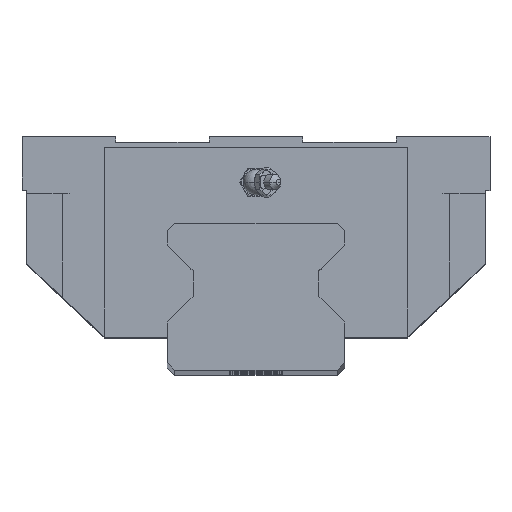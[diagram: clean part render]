
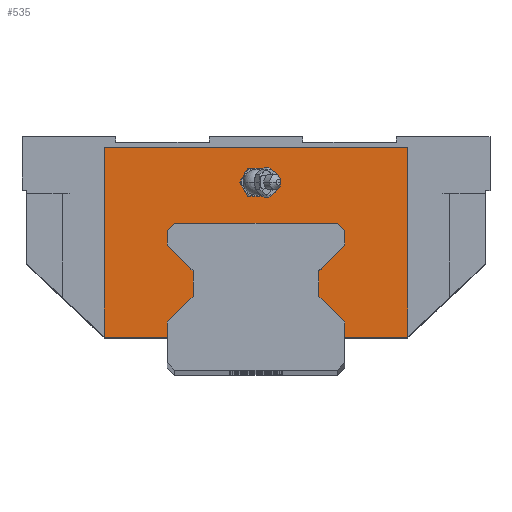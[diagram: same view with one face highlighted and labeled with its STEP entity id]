
A CAD part, top view. The second image highlights one B-rep face of the part: STEP entity #535.
In plain terms, the highlighted planar face has unit normal (0, 0, 1).
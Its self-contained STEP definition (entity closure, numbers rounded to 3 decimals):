
#535=ADVANCED_FACE('',(#1266,#1267),#1268,.T.);
#1266=FACE_BOUND('',#2242,.T.);
#1267=FACE_OUTER_BOUND('',#2243,.T.);
#1268=PLANE('',#2244);
#2242=EDGE_LOOP('',(#3786,#3787));
#2243=EDGE_LOOP('',(#3788,#3789,#3790,#3791,#3792,#3793,#3794,#3795,#3796,#3797,#3798,#3799,#3800,#3801,#3802,#3803,#3804,#3805));
#2244=AXIS2_PLACEMENT_3D('',#3806,#3807,#3808);
#3786=ORIENTED_EDGE('',*,*,#6077,.T.);
#3787=ORIENTED_EDGE('',*,*,#6078,.T.);
#3788=ORIENTED_EDGE('',*,*,#6079,.F.);
#3789=ORIENTED_EDGE('',*,*,#6080,.F.);
#3790=ORIENTED_EDGE('',*,*,#6081,.F.);
#3791=ORIENTED_EDGE('',*,*,#6082,.F.);
#3792=ORIENTED_EDGE('',*,*,#6083,.F.);
#3793=ORIENTED_EDGE('',*,*,#6084,.F.);
#3794=ORIENTED_EDGE('',*,*,#6085,.F.);
#3795=ORIENTED_EDGE('',*,*,#6086,.F.);
#3796=ORIENTED_EDGE('',*,*,#5858,.F.);
#3797=ORIENTED_EDGE('',*,*,#6087,.F.);
#3798=ORIENTED_EDGE('',*,*,#6088,.F.);
#3799=ORIENTED_EDGE('',*,*,#5582,.F.);
#3800=ORIENTED_EDGE('',*,*,#6089,.F.);
#3801=ORIENTED_EDGE('',*,*,#5995,.F.);
#3802=ORIENTED_EDGE('',*,*,#6090,.F.);
#3803=ORIENTED_EDGE('',*,*,#6091,.F.);
#3804=ORIENTED_EDGE('',*,*,#6092,.F.);
#3805=ORIENTED_EDGE('',*,*,#5973,.F.);
#3806=CARTESIAN_POINT('',(0.,40.604,-58.15));
#3807=DIRECTION('',(0.,0.,1.0));
#3808=DIRECTION('',(1.0,0.0,0.));
#5582=EDGE_CURVE('',#6638,#6640,#6641,.T.);
#5858=EDGE_CURVE('',#7120,#7122,#7123,.T.);
#5973=EDGE_CURVE('',#7296,#7298,#7299,.T.);
#5995=EDGE_CURVE('',#7331,#7333,#7334,.T.);
#6077=EDGE_CURVE('',#7455,#7456,#7457,.T.);
#6078=EDGE_CURVE('',#7456,#7455,#7458,.T.);
#6079=EDGE_CURVE('',#7459,#7296,#7460,.T.);
#6080=EDGE_CURVE('',#7461,#7459,#7462,.T.);
#6081=EDGE_CURVE('',#7463,#7461,#7464,.T.);
#6082=EDGE_CURVE('',#7465,#7463,#7466,.T.);
#6083=EDGE_CURVE('',#7467,#7465,#7468,.T.);
#6084=EDGE_CURVE('',#7469,#7467,#7470,.T.);
#6085=EDGE_CURVE('',#7471,#7469,#7472,.T.);
#6086=EDGE_CURVE('',#7122,#7471,#7473,.T.);
#6087=EDGE_CURVE('',#7474,#7120,#7475,.T.);
#6088=EDGE_CURVE('',#6640,#7474,#7476,.T.);
#6089=EDGE_CURVE('',#7333,#6638,#7477,.T.);
#6090=EDGE_CURVE('',#7478,#7331,#7479,.T.);
#6091=EDGE_CURVE('',#7480,#7478,#7481,.T.);
#6092=EDGE_CURVE('',#7298,#7480,#7482,.T.);
#6638=VERTEX_POINT('',#8180);
#6640=VERTEX_POINT('',#8183);
#6641=LINE('',#8184,#8185);
#7120=VERTEX_POINT('',#8939);
#7122=VERTEX_POINT('',#8942);
#7123=LINE('',#8943,#8944);
#7296=VERTEX_POINT('',#9294);
#7298=VERTEX_POINT('',#9297);
#7299=LINE('',#9298,#9299);
#7331=VERTEX_POINT('',#9340);
#7333=VERTEX_POINT('',#9343);
#7334=LINE('',#9344,#9345);
#7455=VERTEX_POINT('',#9512);
#7456=VERTEX_POINT('',#9513);
#7457=CIRCLE('',#9514,3.87);
#7458=CIRCLE('',#9515,3.87);
#7459=VERTEX_POINT('',#9516);
#7460=LINE('',#9517,#9518);
#7461=VERTEX_POINT('',#9519);
#7462=LINE('',#9520,#9521);
#7463=VERTEX_POINT('',#9522);
#7464=LINE('',#9523,#9524);
#7465=VERTEX_POINT('',#9525);
#7466=LINE('',#9526,#9527);
#7467=VERTEX_POINT('',#9528);
#7468=LINE('',#9529,#9530);
#7469=VERTEX_POINT('',#9531);
#7470=LINE('',#9532,#9533);
#7471=VERTEX_POINT('',#9534);
#7472=LINE('',#9535,#9536);
#7473=LINE('',#9537,#9538);
#7474=VERTEX_POINT('',#9539);
#7475=LINE('',#9540,#9541);
#7476=LINE('',#9542,#9543);
#7477=LINE('',#9544,#9545);
#7478=VERTEX_POINT('',#9546);
#7479=LINE('',#9547,#9548);
#7480=VERTEX_POINT('',#9549);
#7481=LINE('',#9550,#9551);
#7482=LINE('',#9552,#9553);
#8180=CARTESIAN_POINT('',(-45.4,10.0,-58.15));
#8183=CARTESIAN_POINT('',(-45.4,66.6,-58.15));
#8184=CARTESIAN_POINT('',(-45.4,10.0,-58.15));
#8185=VECTOR('',#10629,1000.0);
#8939=CARTESIAN_POINT('',(45.4,10.0,-58.15));
#8942=CARTESIAN_POINT('',(26.5,10.0,-58.15));
#8943=CARTESIAN_POINT('',(45.4,10.0,-58.15));
#8944=VECTOR('',#11006,1000.0);
#9294=CARTESIAN_POINT('',(-26.5,41.8,-58.15));
#9297=CARTESIAN_POINT('',(-26.5,37.4,-58.15));
#9298=CARTESIAN_POINT('',(-26.5,41.8,-58.15));
#9299=VECTOR('',#11123,1000.0);
#9340=CARTESIAN_POINT('',(-26.5,14.4,-58.15));
#9343=CARTESIAN_POINT('',(-26.5,10.0,-58.15));
#9344=CARTESIAN_POINT('',(-26.5,14.4,-58.15));
#9345=VECTOR('',#11152,1000.0);
#9512=CARTESIAN_POINT('',(3.87,56.3,-58.15));
#9513=CARTESIAN_POINT('',(-3.87,56.3,-58.15));
#9514=AXIS2_PLACEMENT_3D('',#11271,#11272,#11273);
#9515=AXIS2_PLACEMENT_3D('',#11274,#11275,#11276);
#9516=CARTESIAN_POINT('',(-24.3,44.0,-58.15));
#9517=CARTESIAN_POINT('',(-24.3,44.0,-58.15));
#9518=VECTOR('',#11277,1000.0);
#9519=CARTESIAN_POINT('',(24.3,44.0,-58.15));
#9520=CARTESIAN_POINT('',(24.3,44.0,-58.15));
#9521=VECTOR('',#11278,1000.0);
#9522=CARTESIAN_POINT('',(26.5,41.8,-58.15));
#9523=CARTESIAN_POINT('',(26.5,41.8,-58.15));
#9524=VECTOR('',#11279,1000.0);
#9525=CARTESIAN_POINT('',(26.5,37.4,-58.15));
#9526=CARTESIAN_POINT('',(26.5,37.4,-58.15));
#9527=VECTOR('',#11280,1000.0);
#9528=CARTESIAN_POINT('',(18.833,29.733,-58.15));
#9529=CARTESIAN_POINT('',(18.833,29.733,-58.15));
#9530=VECTOR('',#11281,1000.0);
#9531=CARTESIAN_POINT('',(18.833,22.067,-58.15));
#9532=CARTESIAN_POINT('',(18.833,22.067,-58.15));
#9533=VECTOR('',#11282,1000.0);
#9534=CARTESIAN_POINT('',(26.5,14.4,-58.15));
#9535=CARTESIAN_POINT('',(26.5,14.4,-58.15));
#9536=VECTOR('',#11283,1000.0);
#9537=CARTESIAN_POINT('',(26.5,10.0,-58.15));
#9538=VECTOR('',#11284,1000.0);
#9539=CARTESIAN_POINT('',(45.4,66.6,-58.15));
#9540=CARTESIAN_POINT('',(45.4,66.6,-58.15));
#9541=VECTOR('',#11285,1000.0);
#9542=CARTESIAN_POINT('',(-45.4,66.6,-58.15));
#9543=VECTOR('',#11286,1000.0);
#9544=CARTESIAN_POINT('',(-45.4,10.0,-58.15));
#9545=VECTOR('',#11287,1000.0);
#9546=CARTESIAN_POINT('',(-18.833,22.067,-58.15));
#9547=CARTESIAN_POINT('',(-18.833,22.067,-58.15));
#9548=VECTOR('',#11288,1000.0);
#9549=CARTESIAN_POINT('',(-18.833,29.733,-58.15));
#9550=CARTESIAN_POINT('',(-18.833,29.733,-58.15));
#9551=VECTOR('',#11289,1000.0);
#9552=CARTESIAN_POINT('',(-26.5,37.4,-58.15));
#9553=VECTOR('',#11290,1000.0);
#10629=DIRECTION('',(0.0,1.0,0.0));
#11006=DIRECTION('',(-1.0,0.0,0.0));
#11123=DIRECTION('',(0.0,-1.0,0.0));
#11152=DIRECTION('',(0.0,-1.0,0.0));
#11271=CARTESIAN_POINT('',(0.0,56.3,-58.15));
#11272=DIRECTION('',(0.,0.,-1.0));
#11273=DIRECTION('',(1.0,0.,0.));
#11274=CARTESIAN_POINT('',(0.0,56.3,-58.15));
#11275=DIRECTION('',(0.,0.,-1.0));
#11276=DIRECTION('',(1.0,0.,0.));
#11277=DIRECTION('',(-0.707,-0.707,0.0));
#11278=DIRECTION('',(-1.0,0.0,0.0));
#11279=DIRECTION('',(-0.707,0.707,0.0));
#11280=DIRECTION('',(0.0,1.0,0.0));
#11281=DIRECTION('',(0.707,0.707,0.0));
#11282=DIRECTION('',(0.0,1.0,0.0));
#11283=DIRECTION('',(-0.707,0.707,0.0));
#11284=DIRECTION('',(0.0,1.0,0.0));
#11285=DIRECTION('',(0.0,-1.0,0.0));
#11286=DIRECTION('',(1.0,0.0,0.0));
#11287=DIRECTION('',(-1.0,-0.0,-0.0));
#11288=DIRECTION('',(-0.707,-0.707,0.0));
#11289=DIRECTION('',(0.0,-1.0,0.0));
#11290=DIRECTION('',(0.707,-0.707,0.0));
